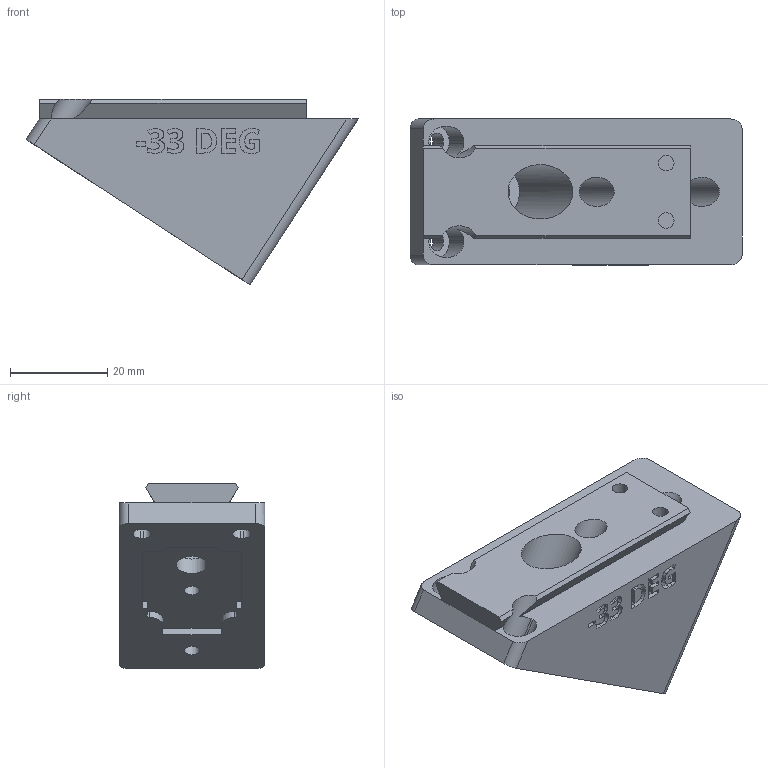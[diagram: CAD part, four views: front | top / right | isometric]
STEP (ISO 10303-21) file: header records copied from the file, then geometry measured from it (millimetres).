
FILE_DESCRIPTION(/* description */ ('STEP AP242 Edition 2','CAx-IF Rec.Pracs.---Representation and Presentation of Product Manufacturing Information (PMI)---4.0---2014-10-13','CAx-IF Rec.Pracs.---3D Tessellated Geometry---0.4---2014-09-14','2;1','CAx-IF Rec.Pracs.---User Defined Attributes---1.5---2016-08-15'),/* implementation_level */ '2;1');
FILE_NAME(/* name */ 'Camera Wedges - CAMERA MOUNTING WEDGE, NEG, -33 DEG',/* time_stamp */ '2026-07-08T20:36:39Z',/* author */ (''),/* organization */ (''),/* preprocessor_version */ 'ST-DEVELOPER v20',/* originating_system */ 'ONSHAPE BY PTC INC, 1.217',/* authorisation */ ' ');
FILE_SCHEMA (('AP242_MANAGED_MODEL_BASED_3D_ENGINEERING_MIM_LF { 1 0 10303 442 3 1 4 }'));
Length unit declared in the file: metre
Products named in the file (1): CAMERA MOUNTING WEDGE, NEG, -33 DEG
Bounding box: 68.29 x 30 x 38.23 mm (x, y, z)
Volume: 36708.9 mm3; surface area: 10536.1 mm2
Topology: 1 solids, 1 shells, 293 faces, 814 edges, 542 vertices
Faces by surface type: plane 145, bspline 100, cylinder 48
Full cylindrical faces by diameter (mm): 3.2 x4, 6 x2, 6.4 x1, 11.2 x1
Entity records: 9674 total; most frequent: CARTESIAN_POINT 2740, ORIENTED_EDGE 1610, DIRECTION 1102, EDGE_CURVE 805, VERTEX_POINT 541, LINE 496, VECTOR 496, EDGE_LOOP 330
